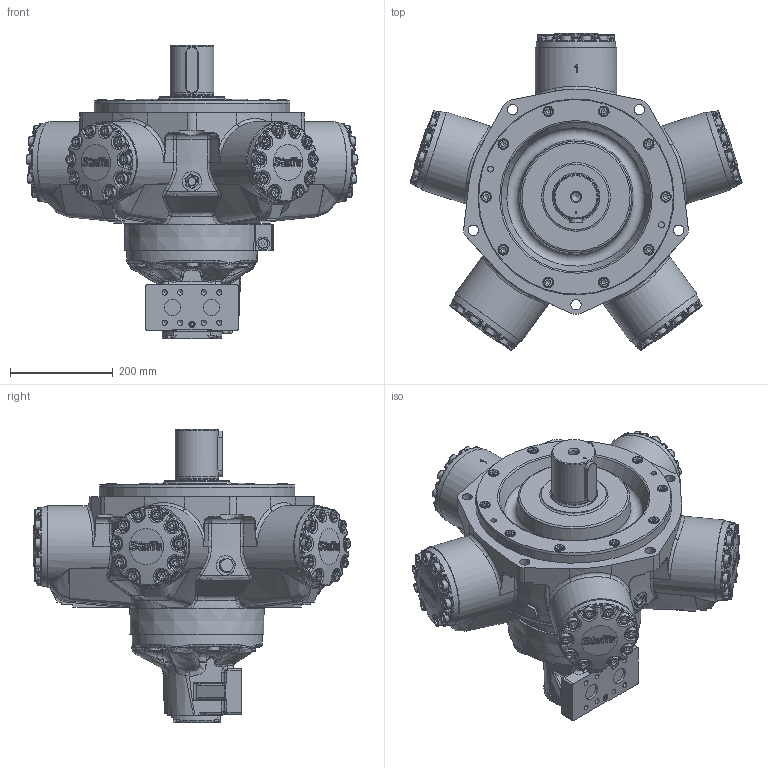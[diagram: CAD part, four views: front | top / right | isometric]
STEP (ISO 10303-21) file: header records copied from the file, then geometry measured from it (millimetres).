
FILE_DESCRIPTION(/* description */ (''),/* implementation_level */ '2;1');
FILE_NAME(/* name */ 'HMC200_P1_SFM3_CS_70.stp',/* time_stamp */ '2025-06-19T13:49:34+01:00',/* author */ ('ccallanga'),/* organization */ (''),/* preprocessor_version */ 'ST-DEVELOPER v20',/* originating_system */ 'Autodesk Inventor 2024',/* authorisation */ '');
FILE_SCHEMA (('AUTOMOTIVE_DESIGN { 1 0 10303 214 3 1 1 }'));
Products named in the file (1): 017751 HMC200 Web Assembly_Simplify_1
Bounding box: 645.1 x 616.02 x 569.42 mm (x, y, z)
Volume: 46673942.7 mm3; surface area: 1223150.3 mm2
Topology: 1 solids, 1 shells, 4802 faces, 11754 edges, 6985 vertices
Faces by surface type: bspline 1820, plane 1254, cylinder 1031, torus 381, cone 201, sphere 115
Full cylindrical faces by diameter (mm): 2.2 x4, 4 x1, 4.134 x4, 5.5 x4, 9.4 x6, 10.25 x8, 11.328 x2, 11.913 x4, 12 x6, 12.7 x4, 16.51 x1, 17.323 x1, 19 x1, 19.05 x60, 20 x5, 20.637 x60, 23.825 x5, 25 x1, 25.4 x5, 26.92 x2, 28.75 x1, 32 x2, 38.1 x3, 68.58 x1, 85.001 x1, 88.837 x1, 92.964 x1, 127 x1, 254 x1, 380.91 x1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
Entity records: 226034 total; most frequent: CARTESIAN_POINT 122218, ORIENTED_EDGE 23028, DIRECTION 16592, EDGE_CURVE 11514, VERTEX_POINT 6985, AXIS2_PLACEMENT_3D 6549, EDGE_LOOP 5085, STYLED_ITEM 4803
